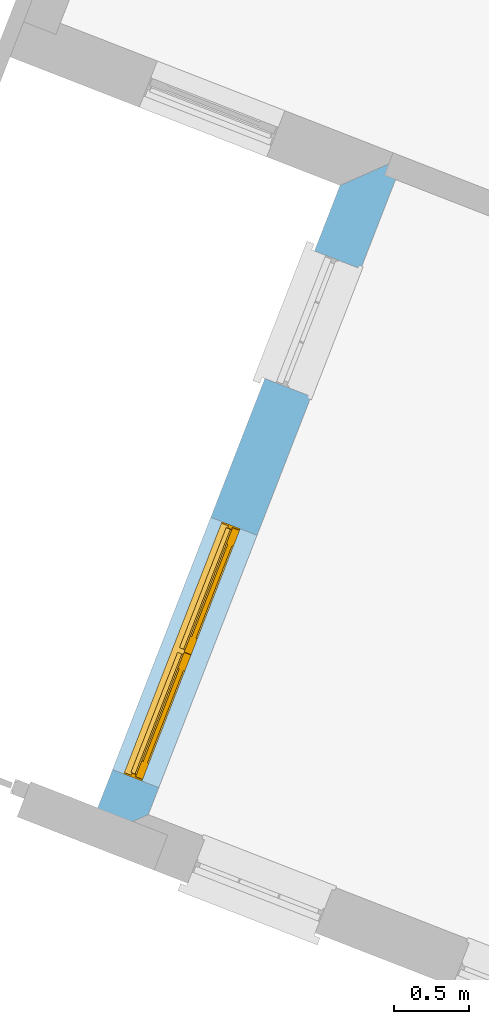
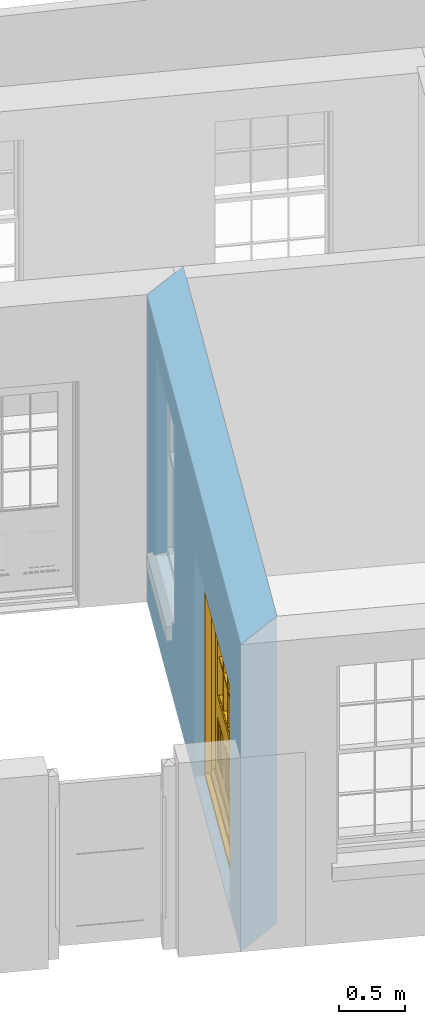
# One storey, part 4 of 10: 1 door, 2 openings, plus 1 element that does not belong to this part.
"""IFC4 building model written with IfcOpenShell, lengths in metres."""

from ifc_helpers import new_model, si_unit, frame, origin, origin_with_axes, place, context, subcontext, project, spatial, polyline, outline, extrude, faceted_brep, source, transform, mapped, material, layer, layer_set, layer_usage, type_object, type_shapes, element, fill, save


model = new_model("IFC4")

# Units and contexts
model_context = context("Model", 3, world=origin_with_axes())
body_context = subcontext(model_context, "Body", "Model", "MODEL_VIEW")
ifc_project = project(units=[si_unit("PLANEANGLEUNIT", "RADIAN"), si_unit("MASSUNIT", "GRAM", prefix="KILO"), si_unit("FORCEUNIT", "NEWTON", prefix="KILO"), si_unit("LENGTHUNIT", "METRE"), si_unit("AREAUNIT", "SQUARE_METRE"), si_unit("VOLUMEUNIT", "CUBIC_METRE")], contexts=[model_context, model_context])

# Sites, building, storey
site_1_placement = place(None, origin_with_axes())
site_1 = spatial("IfcSite", under=ifc_project, at=site_1_placement, Name="Tamar")
site_2_placement = place(site_1_placement, origin_with_axes())
site_2 = spatial("IfcSite", under=site_1, at=site_2_placement, Name="Site plot-8", CompositionType="ELEMENT")
building_placement = place(None, origin_with_axes())
building = spatial("IfcBuilding", under=site_2, at=building_placement, Name="Building plot-8", CompositionType="ELEMENT")
storey_placement = place(None, frame((0.0, 0.0, 26.0), z_axis=(0.0, 0.0, 1.0), x_axis=(1.0, 0.0, 0.0)))
storey = spatial("IfcBuildingStorey", under=building, at=storey_placement, Name="plot-8 0", CompositionType="ELEMENT", Elevation=26.0)

# Wall, openings, door
ifc_material = material(Name="Masonry")
ifc_layer = layer(ifc_material, 0.33, ventilated=False)
ifc_layer_set = layer_set([ifc_layer], Name="exterior_0.08_0.25")
ifc_layer_usage = layer_usage(ifc_layer_set, "AXIS2", "POSITIVE", -0.25)
wall_type = type_object("IfcWallType", Name="exterior_0.08_0.25", PredefinedType="SOLIDWALL", material=ifc_layer_set)
wall_placement = place(storey_placement, frame((223.979982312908, 309.32457709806, 0.0), z_axis=(0.0, 0.0, 1.0), x_axis=(-0.362808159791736, -0.931863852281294, 0.0)))
wall = element("IfcWall", 1, at=wall_placement, inside=storey, type_object=wall_type, material=ifc_layer_usage, Name="exterior", context=body_context, shape_type="SweptSolid", body=[
    extrude(outline(polyline([(-0.0800000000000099, 0.0799999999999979), (0.250000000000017, -0.249999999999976), (4.94140201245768, -0.249999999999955), (4.61140201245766, 0.0799999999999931), (-0.0800000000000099, 0.0799999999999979)])), origin_with_axes(), (0.0, 0.0, 1.0), 2.85),
])
opening_1_placement = place(wall_placement, frame((0.717850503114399, 0.0, 0.75)))
element("IfcOpeningElement", 2, at=opening_1_placement, cuts=wall, Name="My Opening", ObjectType="Opening", context=body_context, shape_type="SweptSolid", body=[
    extrude(outline(polyline([(0.0, -0.269999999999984), (0.910000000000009, -0.269999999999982), (0.910000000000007, 1.1), (-2.55351295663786e-15, 1.1), (0.0, -0.269999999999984)])), origin_with_axes(), (0.0, 0.0, 1.0), 1.82),
])
opening_2_placement = place(wall_placement, frame((2.6185515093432, 0.0, 0.0199999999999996)))
opening_2 = element("IfcOpeningElement", 3, at=opening_2_placement, cuts=wall, Name="My Opening", ObjectType="Opening", context=body_context, shape_type="SweptSolid", body=[
    extrude(outline(polyline([(0.0, -0.269999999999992), (1.80000000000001, -0.269999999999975), (1.80000000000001, 1.10000000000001), (-2.22044604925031e-15, 1.09999999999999), (0.0, -0.269999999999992)])), origin_with_axes(), (0.0, 0.0, 1.0), 2.08),
])
door_type = type_object("IfcDoorType", Name="door_panelled_double", OperationType="SINGLE_SWING_LEFT", PredefinedType="NOTDEFINED")
shared_shape = source(origin(), body_context, "Body", "Brep", [
    faceted_brep([(0.545, 0.195, 0.265), (0.745, 0.195, 0.265), (0.745, 0.2, 0.265), (0.545, 0.2, 0.265), (0.745, 0.2, 0.58), (0.545, 0.2, 0.58), (0.545, 0.195, 0.58), (0.515, 0.19, 0.235), (0.775, 0.19, 0.235), (0.745, 0.195, 0.58), (0.515, 0.19, 0.61), (0.515, 0.185, 0.235), (0.775, 0.185, 0.235), (0.775, 0.19, 0.61), (0.515, 0.185, 0.61), (0.785, 0.185, 0.225), (0.505, 0.185, 0.225), (0.775, 0.185, 0.61), (0.505, 0.185, 0.62), (0.785, 0.185, 0.62), (0.505, 0.18, 0.225), (0.785, 0.18, 0.225), (0.505, 0.18, 0.62), (0.785, 0.18, 0.62), (0.883, 0.18, 0.075), (0.898, 0.18, 0.075), (0.405, 0.18, 0.62), (0.405, 0.18, 0.225), (0.027, 0.18, 0.075), (0.785, 0.18, 0.82), (0.125, 0.18, 0.82), (0.405, 0.185, 0.62), (0.405, 0.185, 0.225), (0.898, 0.18, 2.068), (0.027, 0.17, 0.075), (0.883, 0.17, 0.075), (0.125, 0.18, 0.225), (0.012, 0.18, 0.075), (0.785, 0.19, 0.82), (0.125, 0.19, 0.82), (0.125, 0.18, 0.62), (0.125, 0.185, 0.62), (0.395, 0.185, 0.61), (0.395, 0.185, 0.235), (0.125, 0.185, 0.225), (0.785, 0.18, 1.895), (0.027, 0.14, 0.045), (0.883, 0.14, 0.045), (0.558333, 0.19, 0.83), (0.351667, 0.19, 0.83), (0.125, 0.18, 1.895), (0.125, 0.19, 1.895), (0.785, 0.19, 1.895), (0.012, 0.18, 2.068), (0.135, 0.185, 0.61), (0.395, 0.19, 0.61), (0.395, 0.19, 0.235), (0.135, 0.185, 0.235), (0.027, 0.14, 0.027), (0.883, 0.14, 0.027), (0.568333, 0.19, 0.83), (0.558333, 0.22, 0.83), (0.351667, 0.22, 0.83), (0.341667, 0.19, 0.83), (0.135, 0.19, 1.185), (0.135, 0.19, 1.53), (0.775, 0.19, 1.53), (0.775, 0.19, 1.185), (0.135, 0.19, 0.61), (0.365, 0.195, 0.58), (0.365, 0.195, 0.265), (0.135, 0.19, 0.235), (0.568333, 0.19, 1.175), (0.558333, 0.19, 1.175), (0.775, 0.19, 0.83), (0.558333, 0.22, 1.175), (0.785, 0.22, 0.82), (0.125, 0.22, 0.82), (0.351667, 0.22, 1.175), (0.351667, 0.19, 1.175), (0.341667, 0.19, 1.175), (0.135, 0.19, 0.83), (0.135, 0.19, 1.175), (0.135, 0.22, 1.185), (0.135, 0.22, 1.53), (0.135, 0.19, 1.54), (0.351667, 0.19, 1.885), (0.558333, 0.19, 1.885), (0.775, 0.22, 1.53), (0.775, 0.22, 1.185), (0.775, 0.19, 1.175), (0.775, 0.19, 1.54), (0.165, 0.195, 0.58), (0.365, 0.2, 0.58), (0.365, 0.2, 0.265), (0.165, 0.195, 0.265), (0.568333, 0.22, 0.83), (0.568333, 0.22, 1.175), (0.568333, 0.19, 1.185), (0.558333, 0.19, 1.185), (0.775, 0.22, 0.83), (0.785, 0.23, 0.82), (0.125, 0.23, 0.82), (0.341667, 0.22, 0.83), (0.341667, 0.22, 1.175), (0.351667, 0.19, 1.185), (0.341667, 0.19, 1.185), (0.135, 0.22, 0.83), (0.341667, 0.22, 1.185), (0.125, 0.22, 1.895), (0.341667, 0.22, 1.53), (0.341667, 0.19, 1.53), (0.135, 0.19, 1.885), (0.341667, 0.19, 1.54), (0.341667, 0.19, 1.885), (0.558333, 0.22, 1.885), (0.351667, 0.22, 1.885), (0.568333, 0.19, 1.885), (0.785, 0.22, 1.895), (0.568333, 0.22, 1.185), (0.568333, 0.19, 1.53), (0.568333, 0.22, 1.53), (0.568333, 0.19, 1.54), (0.775, 0.19, 1.885), (0.165, 0.2, 0.58), (0.165, 0.2, 0.265), (0.775, 0.22, 1.175), (0.558333, 0.19, 1.53), (0.351667, 0.22, 1.185), (0.558333, 0.22, 1.185), (0.505, 0.23, 0.62), (0.405, 0.23, 0.62), (0.125, 0.23, 1.895), (0.785, 0.23, 1.895), (0.351667, 0.19, 1.53), (0.135, 0.22, 1.175), (0.135, 0.22, 1.54), (0.341667, 0.22, 1.54), (0.135, 0.22, 1.885), (0.351667, 0.19, 1.54), (0.558333, 0.22, 1.54), (0.558333, 0.19, 1.54), (0.351667, 0.22, 1.54), (0.775, 0.22, 1.54), (0.568333, 0.22, 1.54), (0.775, 0.22, 1.885), (0.558333, 0.22, 1.53), (0.405, 0.23, 0.225), (0.505, 0.23, 0.225), (0.125, 0.23, 0.62), (0.785, 0.23, 0.62), (0.012, 0.23, 2.068), (0.898, 0.23, 2.068), (0.351667, 0.22, 1.53), (0.341667, 0.22, 1.885), (0.568333, 0.22, 1.885), (0.405, 0.225, 0.225), (0.405, 0.225, 0.62), (0.505, 0.225, 0.62), (0.505, 0.225, 0.225), (0.898, 0.23, 0.027), (0.012, 0.23, 0.027), (0.125, 0.225, 0.62), (0.785, 0.225, 0.62), (0.395, 0.225, 0.235), (0.395, 0.225, 0.61), (0.125, 0.23, 0.225), (0.125, 0.225, 0.225), (0.515, 0.225, 0.61), (0.515, 0.225, 0.235), (0.785, 0.23, 0.225), (0.785, 0.225, 0.225), (0.135, 0.225, 0.61), (0.775, 0.225, 0.61), (0.135, 0.225, 0.235), (0.395, 0.22, 0.235), (0.395, 0.22, 0.61), (0.515, 0.22, 0.61), (0.515, 0.22, 0.235), (0.775, 0.225, 0.235), (0.135, 0.22, 0.61), (0.775, 0.22, 0.61), (0.135, 0.22, 0.235), (0.365, 0.215, 0.265), (0.365, 0.215, 0.58), (0.545, 0.215, 0.58), (0.545, 0.215, 0.265), (0.775, 0.22, 0.235), (0.165, 0.215, 0.58), (0.745, 0.215, 0.58), (0.165, 0.215, 0.265), (0.365, 0.21, 0.58), (0.365, 0.21, 0.265), (0.545, 0.21, 0.58), (0.545, 0.21, 0.265), (0.745, 0.215, 0.265), (0.165, 0.21, 0.58), (0.745, 0.21, 0.58), (0.165, 0.21, 0.265), (0.745, 0.21, 0.265), (1.775, 0.178, 0.025), (0.025, 0.178, 0.025), (0.025, 0.15, 0.025), (1.775, 0.15, 0.025), (1.79, 0.23, 0.025), (0.01, 0.23, 0.025), (1.79, 0.178, 0.025), (1.8, 0.23, 0.0), (0.0, 0.23, 0.0), (0.01, 0.178, 0.025), (1.79, 0.178, 2.07), (1.79, 0.23, 2.07), (1.775, 0.178, 2.055), (1.8, 0.23, 2.08), (0.01, 0.23, 2.07), (0.0, 0.23, 2.08), (0.01, 0.178, 2.07), (0.025, 0.178, 2.055), (0.0, 0.1, 2.08), (1.8, 0.1, 2.08), (0.01, 0.1, 2.07), (1.79, 0.1, 2.07), (0.01, 0.15, 2.07), (1.79, 0.15, 2.07), (0.0, 0.1, 0.0), (1.8, 0.1, 0.0), (0.01, 0.1, 0.025), (1.79, 0.1, 0.025), (0.01, 0.15, 0.025), (0.025, 0.15, 2.055), (1.79, 0.15, 0.025), (1.775, 0.15, 2.055), (0.898, 0.18, 0.027), (0.012, 0.18, 0.027), (0.883, 0.18, 0.027), (0.027, 0.18, 0.027), (1.435, 0.195, 0.265), (1.635, 0.195, 0.265), (1.635, 0.2, 0.265), (1.435, 0.2, 0.265), (1.635, 0.2, 0.58), (1.435, 0.2, 0.58), (1.435, 0.195, 0.58), (1.405, 0.19, 0.235), (1.665, 0.19, 0.235), (1.635, 0.195, 0.58), (1.405, 0.19, 0.61), (1.405, 0.185, 0.235), (1.665, 0.185, 0.235), (1.665, 0.19, 0.61), (1.405, 0.185, 0.61), (1.675, 0.185, 0.225), (1.395, 0.185, 0.225), (1.665, 0.185, 0.61), (1.395, 0.185, 0.62), (1.675, 0.185, 0.62), (1.395, 0.18, 0.225), (1.675, 0.18, 0.225), (1.395, 0.18, 0.62), (1.675, 0.18, 0.62), (1.773, 0.18, 0.075), (1.788, 0.18, 0.075), (1.295, 0.18, 0.62), (1.295, 0.18, 0.225), (0.917, 0.18, 0.075), (1.675, 0.18, 0.82), (1.015, 0.18, 0.82), (1.295, 0.185, 0.62), (1.295, 0.185, 0.225), (1.788, 0.18, 2.068), (0.917, 0.17, 0.075), (1.773, 0.17, 0.075), (1.015, 0.18, 0.225), (0.902, 0.18, 0.075), (1.675, 0.19, 0.82), (1.015, 0.19, 0.82), (1.015, 0.18, 0.62), (1.015, 0.185, 0.62), (1.285, 0.185, 0.61), (1.285, 0.185, 0.235), (1.015, 0.185, 0.225), (1.675, 0.18, 1.895), (0.917, 0.14, 0.045), (1.773, 0.14, 0.045), (1.448333, 0.19, 0.83), (1.241667, 0.19, 0.83), (1.015, 0.18, 1.895), (1.015, 0.19, 1.895), (1.675, 0.19, 1.895), (0.902, 0.18, 2.068), (1.025, 0.185, 0.61), (1.285, 0.19, 0.61), (1.285, 0.19, 0.235), (1.025, 0.185, 0.235), (0.917, 0.14, 0.027), (1.773, 0.14, 0.027), (1.458333, 0.19, 0.83), (1.448333, 0.22, 0.83), (1.241667, 0.22, 0.83), (1.231667, 0.19, 0.83), (1.025, 0.19, 1.185), (1.025, 0.19, 1.53), (1.665, 0.19, 1.53), (1.665, 0.19, 1.185), (1.025, 0.19, 0.61), (1.255, 0.195, 0.58), (1.255, 0.195, 0.265), (1.025, 0.19, 0.235), (1.458333, 0.19, 1.175), (1.448333, 0.19, 1.175), (1.665, 0.19, 0.83), (1.448333, 0.22, 1.175), (1.675, 0.22, 0.82), (1.015, 0.22, 0.82), (1.241667, 0.22, 1.175), (1.241667, 0.19, 1.175), (1.231667, 0.19, 1.175), (1.025, 0.19, 0.83), (1.025, 0.19, 1.175), (1.025, 0.22, 1.185), (1.025, 0.22, 1.53), (1.025, 0.19, 1.54), (1.241667, 0.19, 1.885), (1.448333, 0.19, 1.885), (1.665, 0.22, 1.53), (1.665, 0.22, 1.185), (1.665, 0.19, 1.175), (1.665, 0.19, 1.54), (1.055, 0.195, 0.58), (1.255, 0.2, 0.58), (1.255, 0.2, 0.265), (1.055, 0.195, 0.265), (1.458333, 0.22, 0.83), (1.458333, 0.22, 1.175), (1.458333, 0.19, 1.185), (1.448333, 0.19, 1.185), (1.665, 0.22, 0.83), (1.675, 0.23, 0.82), (1.015, 0.23, 0.82), (1.231667, 0.22, 0.83), (1.231667, 0.22, 1.175), (1.241667, 0.19, 1.185), (1.231667, 0.19, 1.185), (1.025, 0.22, 0.83), (1.231667, 0.22, 1.185), (1.015, 0.22, 1.895), (1.231667, 0.22, 1.53), (1.231667, 0.19, 1.53), (1.025, 0.19, 1.885), (1.231667, 0.19, 1.54), (1.231667, 0.19, 1.885), (1.448333, 0.22, 1.885), (1.241667, 0.22, 1.885), (1.458333, 0.19, 1.885), (1.675, 0.22, 1.895), (1.458333, 0.22, 1.185), (1.458333, 0.19, 1.53), (1.458333, 0.22, 1.53), (1.458333, 0.19, 1.54), (1.665, 0.19, 1.885), (1.055, 0.2, 0.58), (1.055, 0.2, 0.265), (1.665, 0.22, 1.175), (1.448333, 0.19, 1.53), (1.241667, 0.22, 1.185), (1.448333, 0.22, 1.185), (1.395, 0.23, 0.62), (1.295, 0.23, 0.62), (1.015, 0.23, 1.895), (1.675, 0.23, 1.895), (1.241667, 0.19, 1.53), (1.025, 0.22, 1.175), (1.025, 0.22, 1.54), (1.231667, 0.22, 1.54), (1.025, 0.22, 1.885), (1.241667, 0.19, 1.54), (1.448333, 0.22, 1.54), (1.448333, 0.19, 1.54), (1.241667, 0.22, 1.54), (1.665, 0.22, 1.54), (1.458333, 0.22, 1.54), (1.665, 0.22, 1.885), (1.448333, 0.22, 1.53), (1.295, 0.23, 0.225), (1.395, 0.23, 0.225), (1.015, 0.23, 0.62), (1.675, 0.23, 0.62), (0.902, 0.23, 2.068), (1.788, 0.23, 2.068), (1.241667, 0.22, 1.53), (1.231667, 0.22, 1.885), (1.458333, 0.22, 1.885), (1.295, 0.225, 0.225), (1.295, 0.225, 0.62), (1.395, 0.225, 0.62), (1.395, 0.225, 0.225), (1.788, 0.23, 0.027), (0.902, 0.23, 0.027), (1.015, 0.225, 0.62), (1.675, 0.225, 0.62), (1.285, 0.225, 0.235), (1.285, 0.225, 0.61), (1.015, 0.23, 0.225), (1.015, 0.225, 0.225), (1.405, 0.225, 0.61), (1.405, 0.225, 0.235), (1.675, 0.23, 0.225), (1.675, 0.225, 0.225), (1.025, 0.225, 0.61), (1.665, 0.225, 0.61), (1.025, 0.225, 0.235), (1.285, 0.22, 0.235), (1.285, 0.22, 0.61), (1.405, 0.22, 0.61), (1.405, 0.22, 0.235), (1.665, 0.225, 0.235), (1.025, 0.22, 0.61), (1.665, 0.22, 0.61), (1.025, 0.22, 0.235), (1.255, 0.215, 0.265), (1.255, 0.215, 0.58), (1.435, 0.215, 0.58), (1.435, 0.215, 0.265), (1.665, 0.22, 0.235), (1.055, 0.215, 0.58), (1.635, 0.215, 0.58), (1.055, 0.215, 0.265), (1.255, 0.21, 0.58), (1.255, 0.21, 0.265), (1.435, 0.21, 0.58), (1.435, 0.21, 0.265), (1.635, 0.215, 0.265), (1.055, 0.21, 0.58), (1.635, 0.21, 0.58), (1.055, 0.21, 0.265), (1.635, 0.21, 0.265), (1.788, 0.18, 0.027), (0.902, 0.18, 0.027), (1.773, 0.18, 0.027), (0.917, 0.18, 0.027)], [[[0, 1, 2, 3]], [[2, 4, 5, 3]], [[0, 3, 5, 6]], [[1, 0, 7, 8]], [[9, 4, 2, 1]], [[9, 6, 5, 4]], [[0, 6, 10, 7]], [[8, 7, 11, 12]], [[8, 13, 9, 1]], [[13, 10, 6, 9]], [[7, 10, 14, 11]], [[15, 12, 11, 16]], [[12, 17, 13, 8]], [[17, 14, 10, 13]], [[18, 16, 11, 14]], [[15, 19, 17, 12]], [[15, 16, 20, 21]], [[14, 17, 19, 18]], [[16, 18, 22, 20]], [[21, 23, 19, 15]], [[24, 25, 21, 20]], [[23, 22, 18, 19]], [[20, 22, 26, 27]], [[23, 21, 25]], [[28, 24, 20, 27]], [[22, 23, 29]], [[29, 30, 26, 22]], [[27, 26, 31, 32]], [[23, 25, 33, 29]], [[34, 35, 24, 28]], [[28, 27, 36, 37]], [[38, 39, 30, 29]], [[26, 30, 40]], [[26, 40, 41, 31]], [[42, 43, 32, 31]], [[32, 44, 36, 27]], [[33, 45, 29]], [[46, 47, 35, 34]], [[36, 40, 37]], [[39, 38, 48, 49]], [[50, 30, 39, 51]], [[29, 45, 52, 38]], [[53, 37, 40, 30]], [[44, 41, 40, 36]], [[31, 41, 54, 42]], [[43, 42, 55, 56]], [[57, 44, 32, 43]], [[50, 45, 33, 53]], [[47, 46, 58, 59]], [[60, 48, 38]], [[49, 48, 61, 62]], [[49, 63, 39]], [[50, 53, 30]], [[51, 39, 64, 65]], [[45, 50, 51, 52]], [[66, 67, 38, 52]], [[57, 54, 41, 44]], [[42, 54, 68, 55]], [[56, 55, 69, 70]], [[56, 71, 57, 43]], [[60, 72, 73, 48]], [[60, 38, 74]], [[48, 73, 75, 61]], [[76, 77, 62, 61]], [[62, 78, 79, 49]], [[49, 79, 80, 63]], [[63, 81, 39]], [[82, 64, 39]], [[65, 64, 83, 84]], [[85, 51, 65]], [[52, 51, 86, 87]], [[88, 89, 67, 66]], [[90, 38, 67]], [[91, 66, 52]], [[71, 68, 54, 57]], [[55, 68, 92, 69]], [[69, 93, 94, 70]], [[70, 95, 71, 56]], [[96, 97, 72, 60]], [[73, 72, 98, 99]], [[74, 38, 90]], [[100, 96, 60, 74]], [[75, 73, 79, 78]], [[61, 75, 97, 96]], [[101, 102, 77, 76]], [[77, 103, 62]], [[96, 76, 61]], [[103, 104, 78, 62]], [[80, 79, 105, 106]], [[63, 80, 104, 103]], [[81, 63, 103, 107]], [[81, 82, 39]], [[106, 64, 82, 80]], [[106, 108, 83, 64]], [[84, 83, 77, 109]], [[110, 111, 65, 84]], [[112, 51, 85]], [[113, 85, 65, 111]], [[114, 86, 51]], [[115, 87, 86, 116]], [[117, 52, 87]], [[118, 76, 89, 88]], [[119, 98, 67, 89]], [[120, 121, 88, 66]], [[67, 98, 72, 90]], [[91, 122, 120, 66]], [[91, 52, 123]], [[95, 92, 68, 71]], [[69, 92, 124, 93]], [[94, 93, 124, 125]], [[94, 125, 95, 70]], [[72, 97, 126, 90]], [[127, 99, 98, 120]], [[99, 105, 79, 73]], [[74, 90, 126, 100]], [[96, 100, 76]], [[128, 129, 75, 78]], [[97, 75, 129, 119]], [[130, 131, 102, 101]], [[109, 77, 102, 132]], [[133, 101, 76, 118]], [[77, 107, 103]], [[78, 104, 108, 128]], [[111, 106, 105, 134]], [[104, 80, 82, 135]], [[107, 135, 82, 81]], [[110, 108, 106, 111]], [[104, 135, 83, 108]], [[83, 135, 77]], [[136, 84, 109]], [[110, 84, 136, 137]], [[114, 51, 112]], [[85, 136, 138, 112]], [[113, 137, 136, 85]], [[111, 134, 139, 113]], [[86, 114, 113, 139]], [[140, 141, 87, 115]], [[139, 142, 116, 86]], [[109, 118, 115, 116]], [[117, 123, 52]], [[117, 87, 141, 122]], [[126, 89, 76]], [[143, 118, 88]], [[120, 98, 119, 121]], [[119, 89, 126, 97]], [[144, 143, 88, 121]], [[144, 122, 91, 143]], [[127, 120, 122, 141]], [[143, 91, 123, 145]], [[124, 92, 95, 125]], [[146, 129, 99, 127]], [[99, 129, 128, 105]], [[100, 126, 76]], [[121, 119, 129, 146]], [[147, 131, 130, 148]], [[131, 149, 102]], [[130, 101, 150]], [[102, 151, 132]], [[118, 109, 132, 133]], [[101, 133, 152]], [[107, 77, 135]], [[153, 128, 108, 110]], [[134, 105, 128, 153]], [[109, 138, 136]], [[153, 110, 137, 142]], [[154, 114, 112, 138]], [[137, 113, 114, 154]], [[141, 139, 134, 127]], [[141, 140, 142, 139]], [[144, 140, 115, 155]], [[142, 137, 154, 116]], [[155, 115, 118]], [[116, 154, 109]], [[117, 155, 145, 123]], [[122, 144, 155, 117]], [[143, 145, 118]], [[121, 146, 140, 144]], [[146, 127, 134, 153]], [[156, 157, 131, 147]], [[148, 130, 158, 159]], [[148, 160, 161, 147]], [[157, 162, 149, 131]], [[161, 151, 102, 149]], [[101, 152, 160, 150]], [[163, 158, 130, 150]], [[151, 152, 133, 132]], [[154, 138, 109]], [[142, 140, 146, 153]], [[145, 155, 118]], [[157, 156, 164, 165]], [[147, 166, 167, 156]], [[168, 169, 159, 158]], [[170, 148, 159, 171]], [[148, 170, 160]], [[166, 147, 161]], [[172, 162, 157, 165]], [[166, 149, 162, 167]], [[166, 161, 149]], [[150, 160, 170]], [[163, 173, 168, 158]], [[171, 163, 150, 170]], [[174, 164, 156, 167]], [[175, 176, 165, 164]], [[169, 168, 177, 178]], [[171, 159, 169, 179]], [[167, 162, 172, 174]], [[176, 180, 172, 165]], [[179, 173, 163, 171]], [[181, 177, 168, 173]], [[164, 174, 182, 175]], [[183, 184, 176, 175]], [[178, 177, 185, 186]], [[179, 169, 178, 187]], [[174, 172, 180, 182]], [[184, 188, 180, 176]], [[187, 181, 173, 179]], [[189, 185, 177, 181]], [[175, 182, 190, 183]], [[191, 184, 183, 192]], [[185, 193, 194, 186]], [[187, 178, 186, 195]], [[182, 180, 188, 190]], [[191, 196, 188, 184]], [[195, 189, 181, 187]], [[197, 193, 185, 189]], [[183, 190, 198, 192]], [[198, 196, 191, 192]], [[194, 193, 197, 199]], [[195, 186, 194, 199]], [[188, 196, 198, 190]], [[197, 189, 195, 199]], [[200, 201, 202, 203]], [[201, 200, 204, 205]], [[206, 204, 200]], [[204, 207, 208, 205]], [[209, 201, 205]], [[210, 211, 204, 206]], [[206, 200, 212, 210]], [[211, 213, 207, 204]], [[214, 205, 208, 215]], [[216, 217, 201, 209]], [[205, 214, 216, 209]], [[216, 214, 211, 210]], [[210, 212, 217, 216]], [[214, 215, 213, 211]], [[218, 219, 213, 215]], [[219, 218, 220, 221]], [[221, 220, 222, 223]], [[215, 208, 224, 218]], [[225, 224, 208, 207]], [[224, 226, 220, 218]], [[224, 225, 227, 226]], [[219, 225, 207, 213]], [[228, 222, 220, 226]], [[219, 221, 227, 225]], [[226, 227, 203, 202]], [[202, 229, 222, 228]], [[228, 226, 202]], [[227, 221, 223, 230]], [[230, 203, 227]], [[217, 229, 202, 201]], [[231, 223, 222, 229]], [[230, 223, 231, 203]], [[231, 229, 217, 212]], [[212, 200, 203, 231]], [[33, 152, 151, 53]], [[25, 160, 152, 33]], [[161, 37, 53, 151]], [[232, 160, 25]], [[161, 233, 37]], [[160, 232, 234]], [[24, 234, 232, 25]], [[233, 161, 235]], [[37, 233, 235, 28]], [[161, 160, 234, 235]], [[35, 47, 234, 24]], [[28, 235, 46, 34]], [[58, 235, 234, 59]], [[59, 234, 47]], [[58, 46, 235]], [[236, 237, 238, 239]], [[238, 240, 241, 239]], [[236, 239, 241, 242]], [[237, 236, 243, 244]], [[245, 240, 238, 237]], [[245, 242, 241, 240]], [[236, 242, 246, 243]], [[244, 243, 247, 248]], [[244, 249, 245, 237]], [[249, 246, 242, 245]], [[243, 246, 250, 247]], [[251, 248, 247, 252]], [[248, 253, 249, 244]], [[253, 250, 246, 249]], [[254, 252, 247, 250]], [[251, 255, 253, 248]], [[251, 252, 256, 257]], [[250, 253, 255, 254]], [[252, 254, 258, 256]], [[257, 259, 255, 251]], [[260, 261, 257, 256]], [[259, 258, 254, 255]], [[256, 258, 262, 263]], [[259, 257, 261]], [[264, 260, 256, 263]], [[258, 259, 265]], [[265, 266, 262, 258]], [[263, 262, 267, 268]], [[259, 261, 269, 265]], [[270, 271, 260, 264]], [[264, 263, 272, 273]], [[274, 275, 266, 265]], [[262, 266, 276]], [[262, 276, 277, 267]], [[278, 279, 268, 267]], [[268, 280, 272, 263]], [[269, 281, 265]], [[282, 283, 271, 270]], [[272, 276, 273]], [[275, 274, 284, 285]], [[286, 266, 275, 287]], [[265, 281, 288, 274]], [[289, 273, 276, 266]], [[280, 277, 276, 272]], [[267, 277, 290, 278]], [[279, 278, 291, 292]], [[293, 280, 268, 279]], [[286, 281, 269, 289]], [[283, 282, 294, 295]], [[296, 284, 274]], [[285, 284, 297, 298]], [[285, 299, 275]], [[286, 289, 266]], [[287, 275, 300, 301]], [[281, 286, 287, 288]], [[302, 303, 274, 288]], [[293, 290, 277, 280]], [[278, 290, 304, 291]], [[292, 291, 305, 306]], [[292, 307, 293, 279]], [[296, 308, 309, 284]], [[296, 274, 310]], [[284, 309, 311, 297]], [[312, 313, 298, 297]], [[298, 314, 315, 285]], [[285, 315, 316, 299]], [[299, 317, 275]], [[318, 300, 275]], [[301, 300, 319, 320]], [[321, 287, 301]], [[288, 287, 322, 323]], [[324, 325, 303, 302]], [[326, 274, 303]], [[327, 302, 288]], [[307, 304, 290, 293]], [[291, 304, 328, 305]], [[305, 329, 330, 306]], [[306, 331, 307, 292]], [[332, 333, 308, 296]], [[309, 308, 334, 335]], [[310, 274, 326]], [[336, 332, 296, 310]], [[311, 309, 315, 314]], [[297, 311, 333, 332]], [[337, 338, 313, 312]], [[313, 339, 298]], [[332, 312, 297]], [[339, 340, 314, 298]], [[316, 315, 341, 342]], [[299, 316, 340, 339]], [[317, 299, 339, 343]], [[317, 318, 275]], [[342, 300, 318, 316]], [[342, 344, 319, 300]], [[320, 319, 313, 345]], [[346, 347, 301, 320]], [[348, 287, 321]], [[349, 321, 301, 347]], [[350, 322, 287]], [[351, 323, 322, 352]], [[353, 288, 323]], [[354, 312, 325, 324]], [[355, 334, 303, 325]], [[356, 357, 324, 302]], [[303, 334, 308, 326]], [[327, 358, 356, 302]], [[327, 288, 359]], [[331, 328, 304, 307]], [[305, 328, 360, 329]], [[330, 329, 360, 361]], [[330, 361, 331, 306]], [[308, 333, 362, 326]], [[363, 335, 334, 356]], [[335, 341, 315, 309]], [[310, 326, 362, 336]], [[332, 336, 312]], [[364, 365, 311, 314]], [[333, 311, 365, 355]], [[366, 367, 338, 337]], [[345, 313, 338, 368]], [[369, 337, 312, 354]], [[313, 343, 339]], [[314, 340, 344, 364]], [[347, 342, 341, 370]], [[340, 316, 318, 371]], [[343, 371, 318, 317]], [[346, 344, 342, 347]], [[340, 371, 319, 344]], [[319, 371, 313]], [[372, 320, 345]], [[346, 320, 372, 373]], [[350, 287, 348]], [[321, 372, 374, 348]], [[349, 373, 372, 321]], [[347, 370, 375, 349]], [[322, 350, 349, 375]], [[376, 377, 323, 351]], [[375, 378, 352, 322]], [[345, 354, 351, 352]], [[353, 359, 288]], [[353, 323, 377, 358]], [[362, 325, 312]], [[379, 354, 324]], [[356, 334, 355, 357]], [[355, 325, 362, 333]], [[380, 379, 324, 357]], [[380, 358, 327, 379]], [[363, 356, 358, 377]], [[379, 327, 359, 381]], [[360, 328, 331, 361]], [[382, 365, 335, 363]], [[335, 365, 364, 341]], [[336, 362, 312]], [[357, 355, 365, 382]], [[383, 367, 366, 384]], [[367, 385, 338]], [[366, 337, 386]], [[338, 387, 368]], [[354, 345, 368, 369]], [[337, 369, 388]], [[343, 313, 371]], [[389, 364, 344, 346]], [[370, 341, 364, 389]], [[345, 374, 372]], [[389, 346, 373, 378]], [[390, 350, 348, 374]], [[373, 349, 350, 390]], [[377, 375, 370, 363]], [[377, 376, 378, 375]], [[380, 376, 351, 391]], [[378, 373, 390, 352]], [[391, 351, 354]], [[352, 390, 345]], [[353, 391, 381, 359]], [[358, 380, 391, 353]], [[379, 381, 354]], [[357, 382, 376, 380]], [[382, 363, 370, 389]], [[392, 393, 367, 383]], [[384, 366, 394, 395]], [[384, 396, 397, 383]], [[393, 398, 385, 367]], [[397, 387, 338, 385]], [[337, 388, 396, 386]], [[399, 394, 366, 386]], [[387, 388, 369, 368]], [[390, 374, 345]], [[378, 376, 382, 389]], [[381, 391, 354]], [[393, 392, 400, 401]], [[383, 402, 403, 392]], [[404, 405, 395, 394]], [[406, 384, 395, 407]], [[384, 406, 396]], [[402, 383, 397]], [[408, 398, 393, 401]], [[402, 385, 398, 403]], [[402, 397, 385]], [[386, 396, 406]], [[399, 409, 404, 394]], [[407, 399, 386, 406]], [[410, 400, 392, 403]], [[411, 412, 401, 400]], [[405, 404, 413, 414]], [[407, 395, 405, 415]], [[403, 398, 408, 410]], [[412, 416, 408, 401]], [[415, 409, 399, 407]], [[417, 413, 404, 409]], [[400, 410, 418, 411]], [[419, 420, 412, 411]], [[414, 413, 421, 422]], [[415, 405, 414, 423]], [[410, 408, 416, 418]], [[420, 424, 416, 412]], [[423, 417, 409, 415]], [[425, 421, 413, 417]], [[411, 418, 426, 419]], [[427, 420, 419, 428]], [[421, 429, 430, 422]], [[423, 414, 422, 431]], [[418, 416, 424, 426]], [[427, 432, 424, 420]], [[431, 425, 417, 423]], [[433, 429, 421, 425]], [[419, 426, 434, 428]], [[434, 432, 427, 428]], [[430, 429, 433, 435]], [[431, 422, 430, 435]], [[424, 432, 434, 426]], [[433, 425, 431, 435]], [[269, 388, 387, 289]], [[261, 396, 388, 269]], [[397, 273, 289, 387]], [[436, 396, 261]], [[397, 437, 273]], [[396, 436, 438]], [[260, 438, 436, 261]], [[437, 397, 439]], [[273, 437, 439, 264]], [[397, 396, 438, 439]], [[271, 283, 438, 260]], [[264, 439, 282, 270]], [[294, 439, 438, 295]], [[295, 438, 283]], [[294, 282, 439]]]),
])
type_shapes(door_type, [shared_shape])
door_placement = place(storey_placement, frame((222.778347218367, 306.98240180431, 0.0199999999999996), z_axis=(0.0, 0.0, 1.0), x_axis=(-0.653054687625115, -1.67735493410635, 0.0)))
door = element("IfcDoor", 4, at=door_placement, inside=storey, type_object=door_type, Name="living outside door", OverallHeight=2.08, OverallWidth=1.8, context=body_context, shape_type="MappedRepresentation", body=[
    mapped(shared_shape, transform((0.0, 0.0, 0.0), scale=1.0)),
])
fill(opening_2, door)

save(model, "model.ifc")
